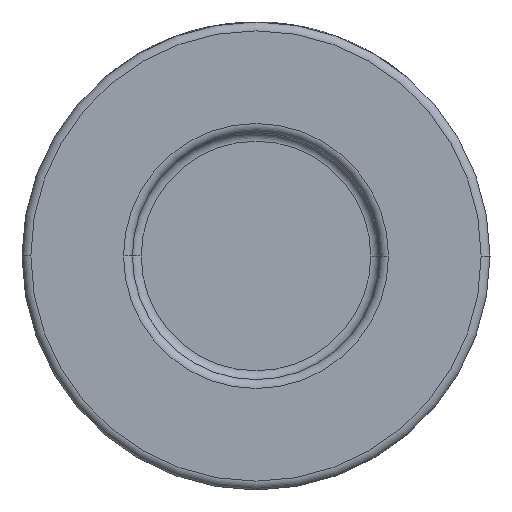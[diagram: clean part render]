
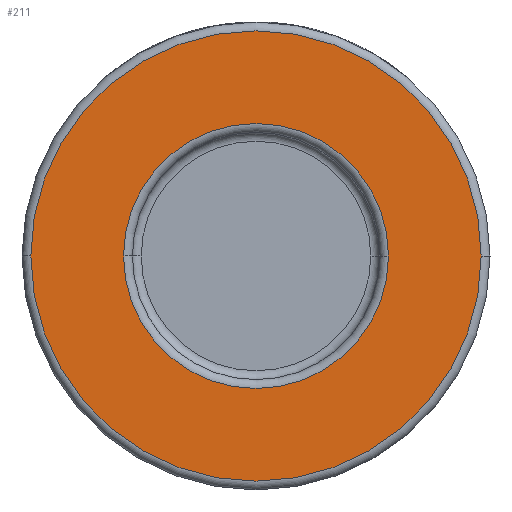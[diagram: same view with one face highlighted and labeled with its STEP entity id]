
A CAD part, front view. The second image highlights one B-rep face of the part: STEP entity #211.
In plain terms, the highlighted planar face has unit normal (0, -1, 0).
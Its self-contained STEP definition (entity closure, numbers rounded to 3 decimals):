
#7 = CIRCLE ( 'NONE', #2577, 25.5 ) ;
#41 = EDGE_CURVE ( 'NONE', #4045, #103, #555, .T. ) ;
#73 = VERTEX_POINT ( 'NONE', #3941 ) ;
#84 = ORIENTED_EDGE ( 'NONE', *, *, #41, .T. ) ;
#89 = DIRECTION ( 'NONE',  ( 1., 0., 0. ) ) ;
#103 = VERTEX_POINT ( 'NONE', #2151 ) ;
#143 = DIRECTION ( 'NONE',  ( 1., 0., 0. ) ) ;
#211 = ADVANCED_FACE ( 'NONE', ( #1895, #3906 ), #2202, .T. ) ;
#474 = DIRECTION ( 'NONE',  ( 0., 1., 0. ) ) ;
#555 = CIRCLE ( 'NONE', #3856, 15. ) ;
#764 = DIRECTION ( 'NONE',  ( 0., -1., 0. ) ) ;
#1212 = DIRECTION ( 'NONE',  ( 1., 0., 0. ) ) ;
#1292 = EDGE_LOOP ( 'NONE', ( #3357, #4528 ) ) ;
#1528 = DIRECTION ( 'NONE',  ( 1., 0., 0. ) ) ;
#1542 = VERTEX_POINT ( 'NONE', #3989 ) ;
#1883 = EDGE_CURVE ( 'NONE', #103, #4045, #2285, .T. ) ;
#1895 = FACE_BOUND ( 'NONE', #2146, .T. ) ;
#2050 = CARTESIAN_POINT ( 'NONE',  ( -15., -20., 0. ) ) ;
#2122 = ORIENTED_EDGE ( 'NONE', *, *, #1883, .T. ) ;
#2146 = EDGE_LOOP ( 'NONE', ( #2122, #84 ) ) ;
#2151 = CARTESIAN_POINT ( 'NONE',  ( 15., -20., 0. ) ) ;
#2202 = PLANE ( 'NONE',  #4004 ) ;
#2204 = CIRCLE ( 'NONE', #3383, 25.5 ) ;
#2221 = CARTESIAN_POINT ( 'NONE',  ( 0., -20., 0. ) ) ;
#2250 = DIRECTION ( 'NONE',  ( 1., 0., 0. ) ) ;
#2285 = CIRCLE ( 'NONE', #2797, 15. ) ;
#2577 = AXIS2_PLACEMENT_3D ( 'NONE', #3979, #3290, #143 ) ;
#2668 = EDGE_CURVE ( 'NONE', #73, #1542, #2204, .T. ) ;
#2774 = CARTESIAN_POINT ( 'NONE',  ( 0., -20., 0. ) ) ;
#2797 = AXIS2_PLACEMENT_3D ( 'NONE', #2221, #474, #1212 ) ;
#3207 = DIRECTION ( 'NONE',  ( 0., 1., 0. ) ) ;
#3290 = DIRECTION ( 'NONE',  ( 0., -1., 0. ) ) ;
#3334 = DIRECTION ( 'NONE',  ( 0., -1., 0. ) ) ;
#3357 = ORIENTED_EDGE ( 'NONE', *, *, #2668, .T. ) ;
#3383 = AXIS2_PLACEMENT_3D ( 'NONE', #4333, #3334, #1528 ) ;
#3584 = CARTESIAN_POINT ( 'NONE',  ( 26.5, -20., 0. ) ) ;
#3856 = AXIS2_PLACEMENT_3D ( 'NONE', #2774, #3207, #89 ) ;
#3906 = FACE_OUTER_BOUND ( 'NONE', #1292, .T. ) ;
#3941 = CARTESIAN_POINT ( 'NONE',  ( 25.5, -20., 0. ) ) ;
#3979 = CARTESIAN_POINT ( 'NONE',  ( 0., -20., 0. ) ) ;
#3989 = CARTESIAN_POINT ( 'NONE',  ( -25.5, -20., 0. ) ) ;
#4004 = AXIS2_PLACEMENT_3D ( 'NONE', #3584, #764, #2250 ) ;
#4045 = VERTEX_POINT ( 'NONE', #2050 ) ;
#4333 = CARTESIAN_POINT ( 'NONE',  ( 0., -20., 0. ) ) ;
#4472 = EDGE_CURVE ( 'NONE', #1542, #73, #7, .T. ) ;
#4528 = ORIENTED_EDGE ( 'NONE', *, *, #4472, .T. ) ;
